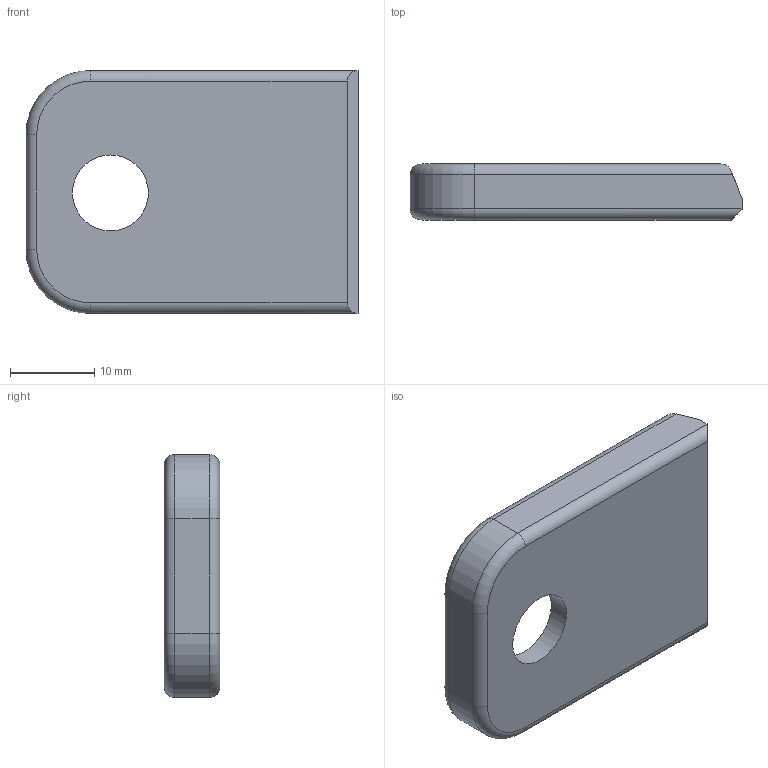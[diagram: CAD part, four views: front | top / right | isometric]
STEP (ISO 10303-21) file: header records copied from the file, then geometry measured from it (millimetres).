
FILE_DESCRIPTION(('FreeCAD Model'),'2;1');
FILE_NAME('D:/3d/magpul-menedez/step/baseplate.step', '2019-10-17T20:30:17',('Author'),(''), 'Open CASCADE STEP processor 7.3','FreeCAD','Unknown');
FILE_SCHEMA(('AUTOMOTIVE_DESIGN { 1 0 10303 214 1 1 1 1 }'));
Length unit declared in the file: millimetre
Products named in the file (1): Cut
Bounding box: 39.32 x 6.6 x 28.78 mm (x, y, z)
Volume: 3434.7 mm3; surface area: 3406.5 mm2
Topology: 1 solids, 1 shells, 64 faces, 154 edges, 92 vertices
Faces by surface type: cylinder 31, plane 19, torus 10, bspline 4
Full cylindrical faces by diameter (mm): 9 x1
Entity records: 5163 total; most frequent: CARTESIAN_POINT 1664, DIRECTION 567, ORIENTED_EDGE 308, PCURVE 308, DEFINITIONAL_REPRESENTATION 308, LINE 304, VECTOR 304, EDGE_CURVE 154
